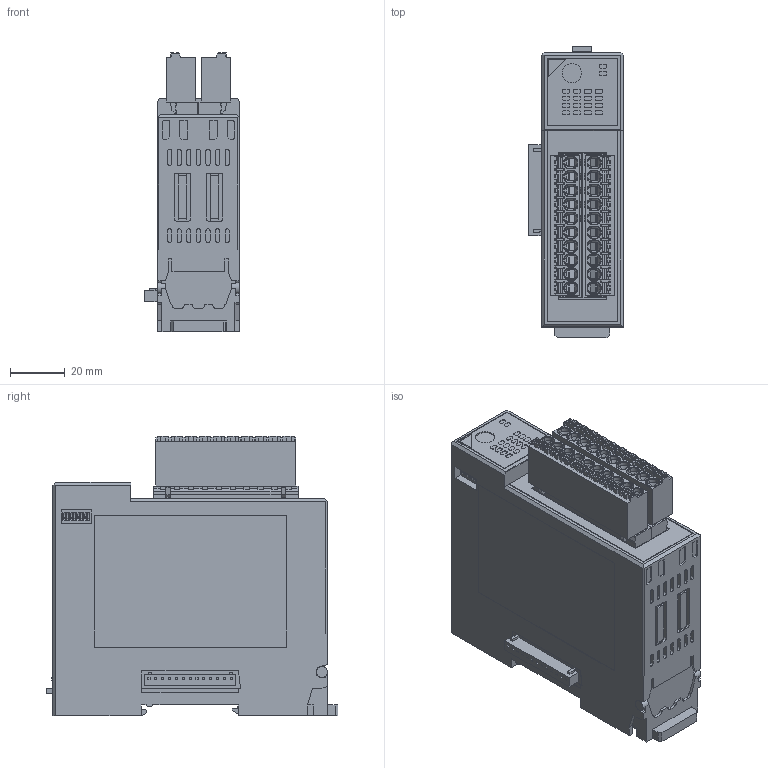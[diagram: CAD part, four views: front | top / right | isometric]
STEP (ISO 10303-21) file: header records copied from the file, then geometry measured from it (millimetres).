
FILE_DESCRIPTION (( 'STEP AP203' ), '1' );
FILE_NAME ('AS_QDM1-DxxxxxC_251017.STEP', '2025-10-19T04:13:14', ( '' ), ( '' ), 'SwSTEP 2.0', 'SolidWorks 2022', '' );
FILE_SCHEMA (( 'CONFIG_CONTROL_DESIGN' ));
Products named in the file (3): dinkle_2ess-10p; QDM1-DxxxxxC_251017; AS_QDM1-DxxxxxC_251017
Assembly tree (3 placements, depth 2):
  AS_QDM1-DxxxxxC_251017
    QDM1-DxxxxxC_251017
    dinkle_2ess-10p  x2
Bounding box: 34.5 x 106.35 x 102 mm (x, y, z)
Volume: 249950 mm3; surface area: 48938.5 mm2
Topology: 3 solids, 3 shells, 4063 faces, 10268 edges, 6430 vertices
Faces by surface type: plane 2214, cylinder 1142, bspline 400, torus 176, cone 131
Entity records: 98882 total; most frequent: CARTESIAN_POINT 29692, ORIENTED_EDGE 14740, DIRECTION 13662, EDGE_CURVE 7370, VECTOR 5154, LINE 5154, VERTEX_POINT 4704, AXIS2_PLACEMENT_3D 4254
